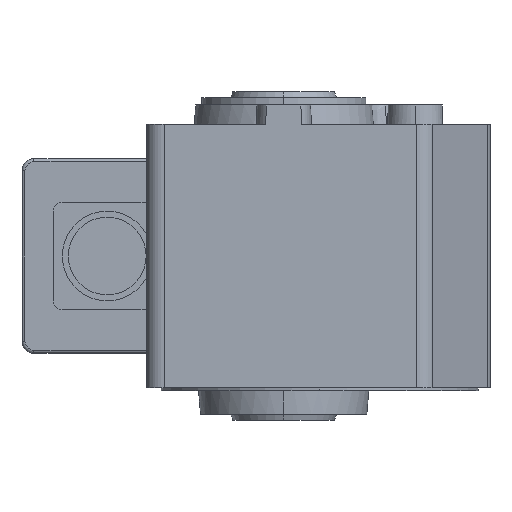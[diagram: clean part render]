
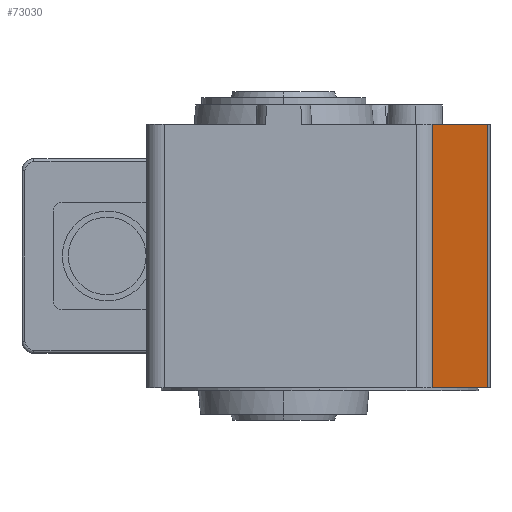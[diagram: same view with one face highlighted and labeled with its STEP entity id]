
A CAD part, left-side view. The second image highlights one B-rep face of the part: STEP entity #73030.
In plain terms, the highlighted planar face has unit normal (-0.5, -0.866, 0) as drawn and (0, -0.866, 0.5) by its records, which use the part's own axes.
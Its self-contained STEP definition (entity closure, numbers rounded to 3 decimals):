
#72640=CARTESIAN_POINT('',(-80.658,-368.278,
217.812));
#72650=DIRECTION('',(0.,0.866,-0.5));
#72660=DIRECTION('',(0.,0.5,0.866));
#72670=AXIS2_PLACEMENT_3D('',#72640,#72650,#72660);
#72680=PLANE('',#72670);
#72690=CARTESIAN_POINT('',(-177.458,-342.477,262.5));
#72700=DIRECTION('',(0.,0.5,0.866));
#72710=VECTOR('',#72700,1.);
#72720=LINE('',#72690,#72710);
#72730=CARTESIAN_POINT('',(-177.458,-362.674,
227.519));
#72740=VERTEX_POINT('',#72730);
#72750=CARTESIAN_POINT('',(-177.458,-344.21,259.5));
#72760=VERTEX_POINT('',#72750);
#72770=EDGE_CURVE('',#72740,#72760,#72720,.T.);
#72780=ORIENTED_EDGE('',*,*,#72770,.F.);
#72790=CARTESIAN_POINT('',(-172.685,-344.21,259.5));
#72800=DIRECTION('',(-1.,0.,0.));
#72810=VECTOR('',#72800,1.);
#72820=LINE('',#72790,#72810);
#72830=CARTESIAN_POINT('',(-89.458,-344.21,259.5));
#72840=VERTEX_POINT('',#72830);
#72850=EDGE_CURVE('',#72840,#72760,#72820,.T.);
#72860=ORIENTED_EDGE('',*,*,#72850,.T.);
#72870=CARTESIAN_POINT('',(-89.458,-342.477,262.5));
#72880=DIRECTION('',(0.,-0.5,-0.866));
#72890=VECTOR('',#72880,1.);
#72900=LINE('',#72870,#72890);
#72910=CARTESIAN_POINT('',(-89.458,-362.674,
227.519));
#72920=VERTEX_POINT('',#72910);
#72930=EDGE_CURVE('',#72840,#72920,#72900,.T.);
#72940=ORIENTED_EDGE('',*,*,#72930,.F.);
#72950=CARTESIAN_POINT('',(-172.685,-362.674,
227.519));
#72960=DIRECTION('',(1.,0.,0.));
#72970=VECTOR('',#72960,1.);
#72980=LINE('',#72950,#72970);
#72990=EDGE_CURVE('',#72740,#72920,#72980,.T.);
#73000=ORIENTED_EDGE('',*,*,#72990,.T.);
#73010=EDGE_LOOP('',(#73000,#72940,#72860,#72780));
#73020=FACE_OUTER_BOUND('',#73010,.T.);
#73030=ADVANCED_FACE('',(#73020),#72680,.F.);
